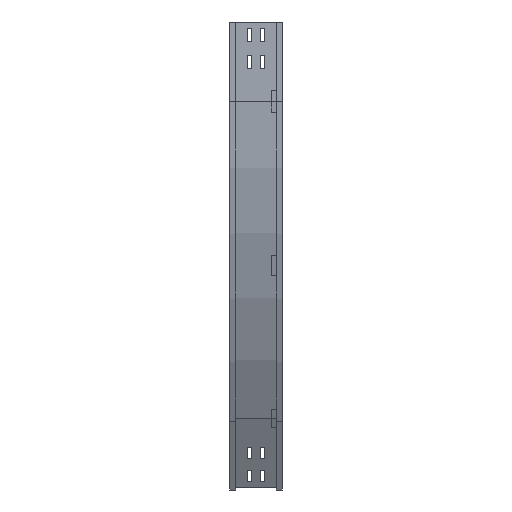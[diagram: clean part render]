
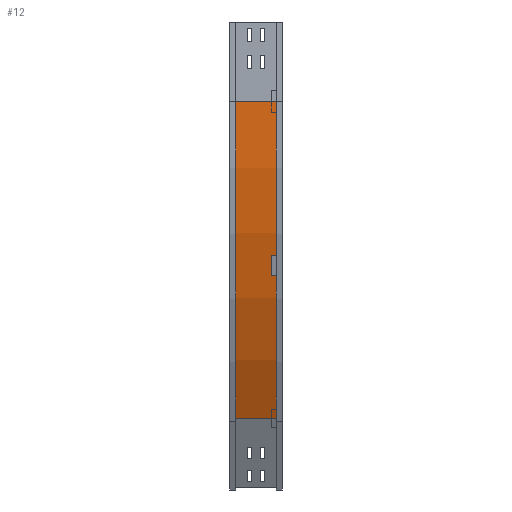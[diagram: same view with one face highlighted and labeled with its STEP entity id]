
A CAD part, left-side view. The second image highlights one B-rep face of the part: STEP entity #12.
In plain terms, the highlighted cylindrical face has radius 1200 mm (diameter 2400 mm), a partial arc.
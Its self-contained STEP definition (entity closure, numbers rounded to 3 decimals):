
#8 = VERTEX_POINT ( 'NONE', #4168 ) ;
#12 = ADVANCED_FACE ( 'NONE', ( #2169 ), #2783, .T. ) ;
#25 = ORIENTED_EDGE ( 'NONE', *, *, #4327, .T. ) ;
#137 = VECTOR ( 'NONE', #1058, 1000. ) ;
#199 = CARTESIAN_POINT ( 'NONE',  ( 169.77, 12., -750. ) ) ;
#221 = LINE ( 'NONE', #710, #137 ) ;
#242 = CIRCLE ( 'NONE', #1115, 1200. ) ;
#256 = EDGE_LOOP ( 'NONE', ( #1809, #1591, #25, #1335 ) ) ;
#350 = CIRCLE ( 'NONE', #3424, 1200. ) ;
#392 = VERTEX_POINT ( 'NONE', #416 ) ;
#416 = CARTESIAN_POINT ( 'NONE',  ( 9., 88., -150. ) ) ;
#427 = DIRECTION ( 'NONE',  ( 0., 0., -1. ) ) ;
#676 = EDGE_CURVE ( 'NONE', #8, #4406, #1532, .T. ) ;
#710 = CARTESIAN_POINT ( 'NONE',  ( 9., 12., -150. ) ) ;
#901 = EDGE_CURVE ( 'NONE', #3560, #4406, #350, .T. ) ;
#1058 = DIRECTION ( 'NONE',  ( 0., -1., 0. ) ) ;
#1100 = CARTESIAN_POINT ( 'NONE',  ( 169.77, 12., -750. ) ) ;
#1115 = AXIS2_PLACEMENT_3D ( 'NONE', #1879, #3238, #3896 ) ;
#1244 = EDGE_CURVE ( 'NONE', #392, #3560, #221, .T. ) ;
#1335 = ORIENTED_EDGE ( 'NONE', *, *, #676, .T. ) ;
#1532 = LINE ( 'NONE', #199, #3713 ) ;
#1591 = ORIENTED_EDGE ( 'NONE', *, *, #1244, .F. ) ;
#1627 = DIRECTION ( 'NONE',  ( 0., -1., 0. ) ) ;
#1711 = CARTESIAN_POINT ( 'NONE',  ( 1209., 12., -150. ) ) ;
#1809 = ORIENTED_EDGE ( 'NONE', *, *, #901, .F. ) ;
#1879 = CARTESIAN_POINT ( 'NONE',  ( 1209., 88., -150. ) ) ;
#2169 = FACE_OUTER_BOUND ( 'NONE', #256, .T. ) ;
#2429 = CARTESIAN_POINT ( 'NONE',  ( 9., 12., -150. ) ) ;
#2486 = DIRECTION ( 'NONE',  ( 0., -1., 0. ) ) ;
#2783 = CYLINDRICAL_SURFACE ( 'NONE', #4068, 1200. ) ;
#3238 = DIRECTION ( 'NONE',  ( 0., -1., 0. ) ) ;
#3424 = AXIS2_PLACEMENT_3D ( 'NONE', #1711, #4445, #4085 ) ;
#3560 = VERTEX_POINT ( 'NONE', #2429 ) ;
#3713 = VECTOR ( 'NONE', #1627, 1000. ) ;
#3894 = CARTESIAN_POINT ( 'NONE',  ( 1209., 0., -150. ) ) ;
#3896 = DIRECTION ( 'NONE',  ( -1., 0., 0. ) ) ;
#4068 = AXIS2_PLACEMENT_3D ( 'NONE', #3894, #2486, #427 ) ;
#4085 = DIRECTION ( 'NONE',  ( -1., 0., 0. ) ) ;
#4168 = CARTESIAN_POINT ( 'NONE',  ( 169.77, 88., -750. ) ) ;
#4327 = EDGE_CURVE ( 'NONE', #392, #8, #242, .T. ) ;
#4406 = VERTEX_POINT ( 'NONE', #1100 ) ;
#4445 = DIRECTION ( 'NONE',  ( 0., -1., 0. ) ) ;
